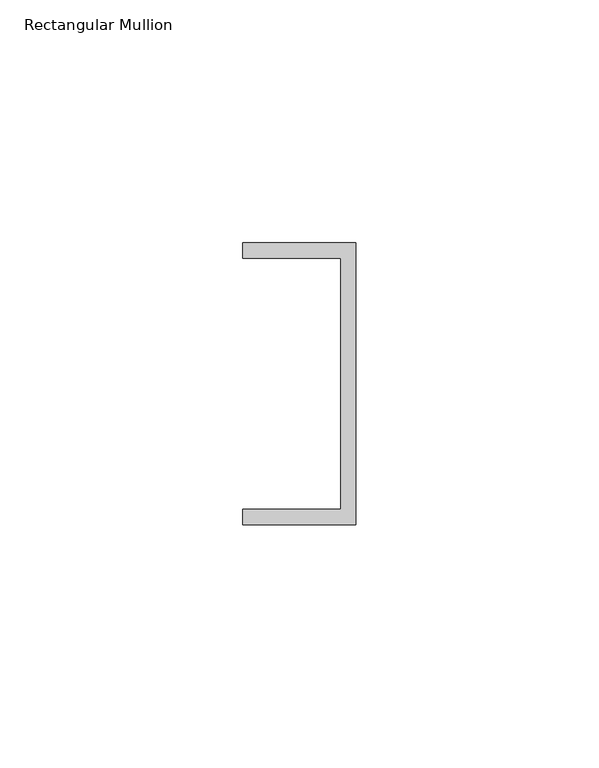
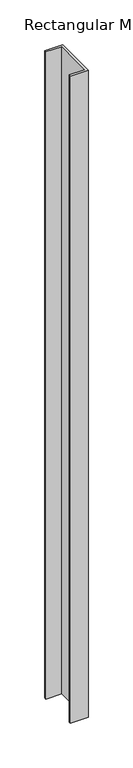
"""IFC4 building model written with IfcOpenShell, lengths in millimetres: member geometry, Rectangular Mullion : Frame-Teknion-Altos-Base_Channel."""

from ifc_helpers import new_model, si_unit, frame, origin, place, context, project, spatial, polyline, outline, extrude, source, transform, mapped, element, save


def rectangular_mullion_d5ff06bb(model_context):
    return source(origin(), model_context, "Body", "SweptSolid", [
        extrude(outline(polyline([(0.0, 29.0214844), (0.0, -29.0214844), (-23.3164063, -29.0214844), (-23.3164063, -25.8464844), (-3.175, -25.8464844), (-3.175, 25.8464844), (-23.3164063, 25.8464844), (-23.3164063, 29.0214844), (0.0, 29.0214844)])), frame((0.0, 0.0, -886.4203125), z_axis=(0.0, 0.0, 1.0), x_axis=(1.0, 0.0, 0.0)), (0.0, 0.0, 1.0), 886.4203125),
    ])


if __name__ == "__main__":
    model = new_model("IFC4")
    model_context = context("Model", 3, world=origin())
    ifc_project = project(units=[si_unit("LENGTHUNIT", "METRE", prefix="MILLI")], contexts=[model_context])
    site = spatial("IfcSite", under=ifc_project)
    building = spatial("IfcBuilding", under=site)
    placement = place(None, origin())
    rectangular_mullion_shape = rectangular_mullion_d5ff06bb(model_context)
    element("IfcMember", 1, ObjectType="Rectangular Mullion : Frame-Teknion-Altos-Base_Channel", at=placement, inside=building, context=model_context, shape_type="MappedRepresentation", body=[
        mapped(rectangular_mullion_shape, transform((0.0, 0.0, 0.0), x_axis=(1.0, 0.0, 0.0), y_axis=(0.0, 1.0, 0.0), z_axis=(0.0, 0.0, 1.0))),
    ])
    save(model, "model.ifc")
